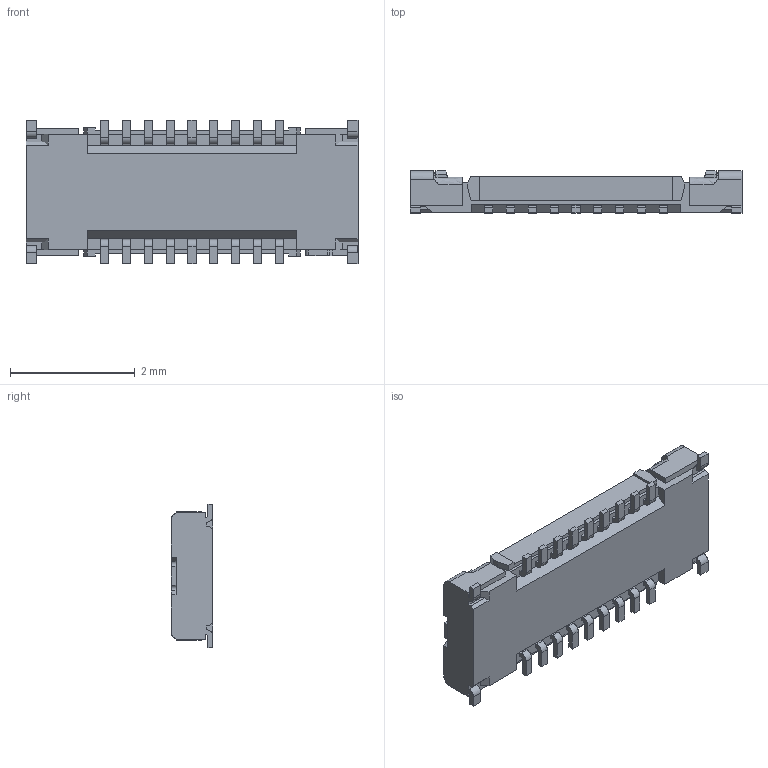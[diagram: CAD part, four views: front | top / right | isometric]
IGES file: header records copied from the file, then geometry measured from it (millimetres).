
Start section: SolidWorks IGES file using analytic representation for surfaces
Global section: file name: _exported\20709-018E-01C RECEPTACLE ASSY IGES R2 ALL.IGS; native system: SolidWorks 2023; preprocessor: SolidWorks 2023; author: 83197; date: 250228.173446; units: millimetre
Bounding box: 5.32 x 0.67 x 2.3 mm (x, y, z)
Surface area: 42.3 mm2 (no closed solid volume)
Topology: 0 solids, 0 shells, 434 faces, 2788 edges, 2784 vertices
Faces by surface type: bspline 334, revolution 100
